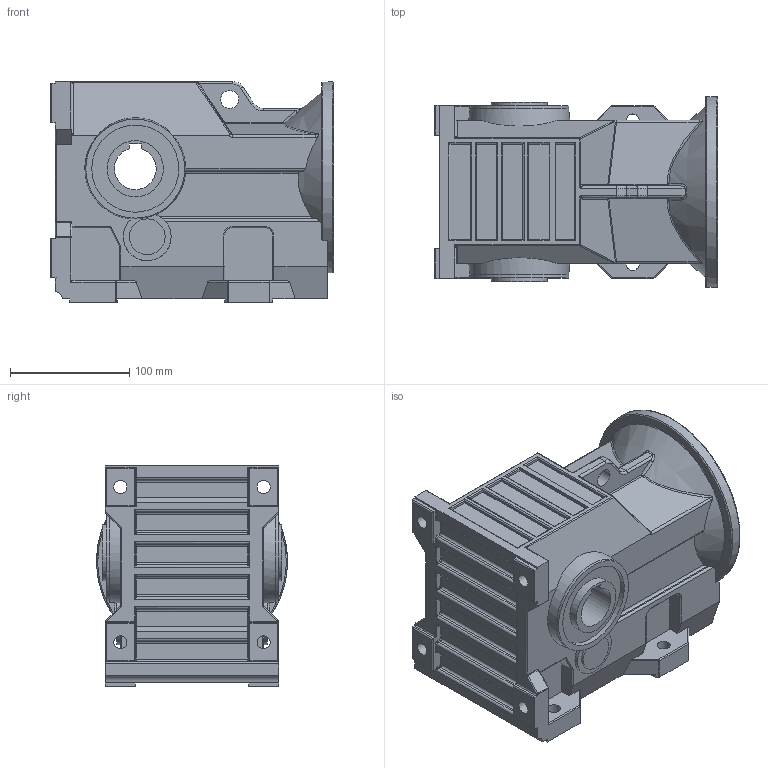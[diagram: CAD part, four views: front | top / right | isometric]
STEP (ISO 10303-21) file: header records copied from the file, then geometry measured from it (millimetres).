
FILE_DESCRIPTION((''),'2;1');
FILE_NAME('F:\PAWEŁ\ZLECENIA\2011 DualSystem\Przekładnie DK\001 Modele\DKAB40_\DK_40_STEP\DK_B_40.stp','2012-06-26T16:00:13',('admin'),(''),'Autodesk Inventor 2009','Autodesk Inventor 2009','');
FILE_SCHEMA(('AUTOMOTIVE_DESIGN { 1 0 10303 214 1 1 1 1 }'));
Length unit declared in the file: millimetre
Products named in the file (1): DK_B_40
Bounding box: 237 x 159.96 x 185 mm (x, y, z)
Volume: 4393905.7 mm3; surface area: 248139.5 mm2
Topology: 1 solids, 1 shells, 523 faces, 1289 edges, 758 vertices
Faces by surface type: cylinder 219, plane 149, bspline 130, torus 14, sphere 9, cone 2
Full cylindrical faces by diameter (mm): 11 x4, 15 x1, 30 x1, 47 x1, 72.839 x1, 82.839 x2, 120 x1, 160 x1
Entity records: 20216 total; most frequent: CARTESIAN_POINT 8444, ORIENTED_EDGE 2464, DIRECTION 2375, EDGE_CURVE 1232, AXIS2_PLACEMENT_3D 866, VERTEX_POINT 750, VECTOR 643, LINE 643
